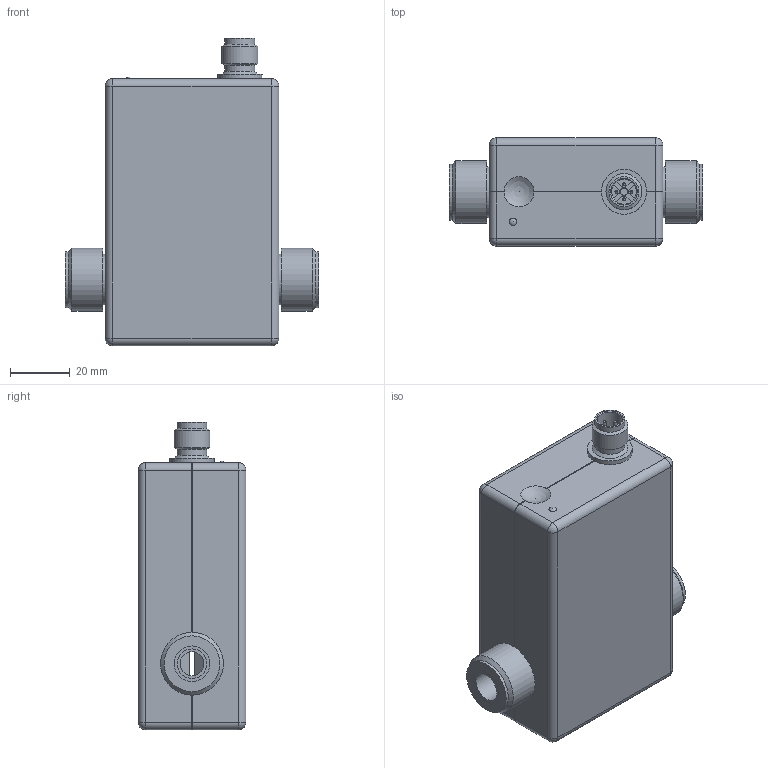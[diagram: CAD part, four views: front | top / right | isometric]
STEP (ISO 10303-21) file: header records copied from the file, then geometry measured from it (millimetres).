
FILE_DESCRIPTION(/* description */ ('VMZ.2 06 G=G ½ B, d2=Ø8mm'),/* implementation_level */ '2;1');
FILE_NAME(/* name */ 'F:\Tausch\kuelper\3D-Modelle\VMZ063S1PEGY4000.stp',/* time_stamp */ '2021-01-27T11:52:16+01:00',/* author */ ('kuelper'),/* organization */ (''),/* preprocessor_version */ 'ST-DEVELOPER v18',/* originating_system */ 'Autodesk Inventor 2020',/* authorisation */ '');
FILE_SCHEMA (('AUTOMOTIVE_DESIGN { 1 0 10303 214 3 1 1 }'));
Length unit declared in the file: millimetre
Products named in the file (1): MID-0778
Bounding box: 84.5 x 36 x 102.5 mm (x, y, z)
Volume: 188890.4 mm3; surface area: 30704.6 mm2
Topology: 3 solids, 3 shells, 123 faces, 337 edges, 218 vertices
Faces by surface type: plane 56, cylinder 47, sphere 14, cone 6
Full cylindrical faces by diameter (mm): 1 x4, 2.5 x1, 8 x1, 8.3 x1, 9.82 x2, 10 x2, 11.82 x2, 11.84 x2, 12 x1, 15 x1, 16.955 x2, 18.6 x2, 20.955 x2
Entity records: 4134 total; most frequent: DIRECTION 745, CARTESIAN_POINT 665, ORIENTED_EDGE 646, EDGE_CURVE 323, AXIS2_PLACEMENT_3D 298, VERTEX_POINT 218, CIRCLE 170, LINE 149
